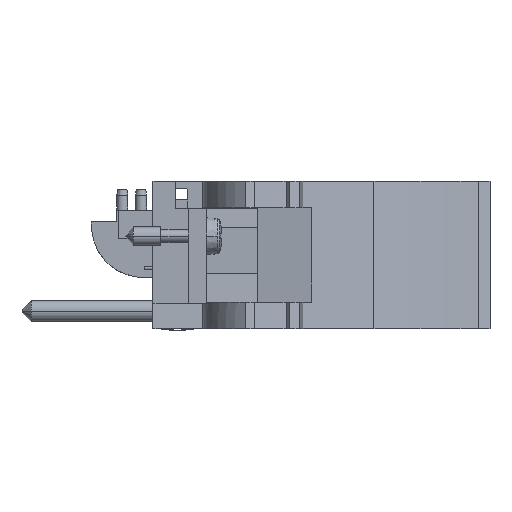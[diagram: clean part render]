
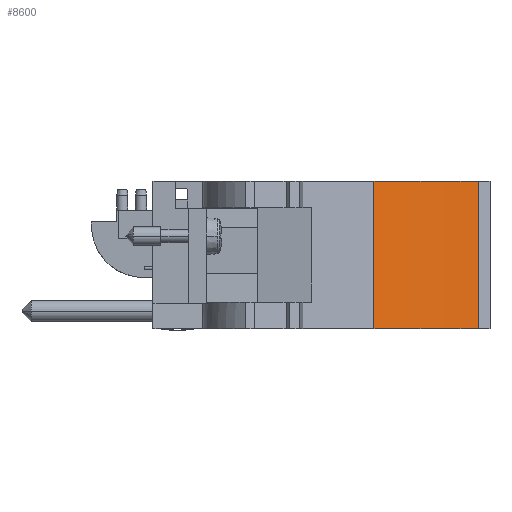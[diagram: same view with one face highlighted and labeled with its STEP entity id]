
A CAD part, front view. The second image highlights one B-rep face of the part: STEP entity #8600.
In plain terms, the highlighted cylindrical face has radius 51.46 mm (diameter 102.919 mm), a partial arc.
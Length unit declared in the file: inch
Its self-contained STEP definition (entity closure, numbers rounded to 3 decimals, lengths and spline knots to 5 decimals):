
#642=CARTESIAN_POINT('',(7.15033,-2.16229,-0.256));
#643=DIRECTION('',(0.,0.,-1.));
#644=DIRECTION('',(-0.435,0.9,0.));
#645=AXIS2_PLACEMENT_3D('',#642,#643,#644);
#2475=CARTESIAN_POINT('',(7.15033,-2.16229,0.532));
#2476=DIRECTION('',(0.,0.,-1.));
#2477=DIRECTION('',(-0.435,0.9,0.));
#2478=AXIS2_PLACEMENT_3D('',#2475,#2476,#2477);
#2693=DIRECTION('',(0.,0.,-1.));
#2694=VECTOR('',#2693,0.788);
#2695=CARTESIAN_POINT('',(6.827,-0.16229,0.532));
#2696=LINE('',#2695,#2694);
#2701=DIRECTION('',(0.,0.,-1.));
#2702=VECTOR('',#2701,0.788);
#2703=CARTESIAN_POINT('',(6.26903,-0.33805,0.532));
#2704=LINE('',#2703,#2702);
#4294=CARTESIAN_POINT('',(6.26903,-0.33805,0.532));
#4295=CARTESIAN_POINT('',(6.827,-0.16229,0.532));
#4296=VERTEX_POINT('',#4294);
#4297=VERTEX_POINT('',#4295);
#4298=CARTESIAN_POINT('',(6.26903,-0.33805,-0.256));
#4299=CARTESIAN_POINT('',(6.827,-0.16229,-0.256));
#4300=VERTEX_POINT('',#4298);
#4301=VERTEX_POINT('',#4299);
#8588=CARTESIAN_POINT('',(7.15033,-2.16229,-0.256));
#8589=DIRECTION('',(0.,0.,-1.));
#8590=DIRECTION('',(0.,1.,0.));
#8591=AXIS2_PLACEMENT_3D('',#8588,#8589,#8590);
#8592=CYLINDRICAL_SURFACE('',#8591,2.02597);
#8593=ORIENTED_EDGE('',*,*,#8305,.T.);
#8594=ORIENTED_EDGE('',*,*,#8580,.T.);
#8595=ORIENTED_EDGE('',*,*,#5699,.F.);
#8597=ORIENTED_EDGE('',*,*,#8596,.F.);
#8598=EDGE_LOOP('',(#8593,#8594,#8595,#8597));
#8599=FACE_OUTER_BOUND('',#8598,.F.);
#8600=ADVANCED_FACE('',(#8599),#8592,.F.);
#646=CIRCLE('',#645,2.02597);
#2479=CIRCLE('',#2478,2.02597);
#5699=EDGE_CURVE('',#4300,#4301,#646,.T.);
#8305=EDGE_CURVE('',#4296,#4297,#2479,.T.);
#8580=EDGE_CURVE('',#4297,#4301,#2696,.T.);
#8596=EDGE_CURVE('',#4296,#4300,#2704,.T.);
